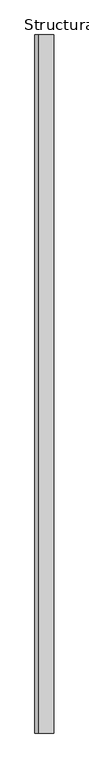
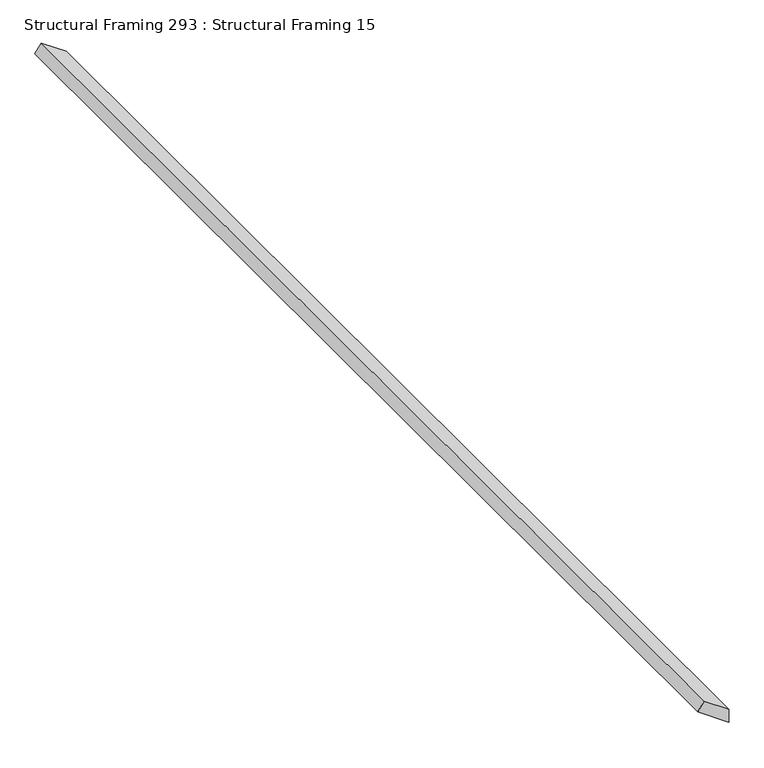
"""IFC4 building model written with IfcOpenShell, lengths in millimetres: beam geometry, Structural Framing 293 : Structural Framing 15."""

from ifc_helpers import new_model, si_unit, frame, origin, place, context, project, spatial, polyline, outline, extrude, source, transform, mapped, element, save


def structural_framing_293_structural_framing_15_7859e044(model_context):
    return source(origin(), model_context, "Body", "SweptSolid", [
        extrude(outline(polyline([(100.0, 5062.7785255), (51.1319528, 5132.5693297), (81.6513175, 5132.5693297), (120.4788011, 5077.1179364), (100.0, 5062.7785255)])), frame((0.0, -6702.9048058, 0.0), z_axis=(0.0, 1.0, 0.0), x_axis=(0.0, 0.0, 1.0)), (0.0, 0.0, 1.0), 2558.455608),
    ])


if __name__ == "__main__":
    model = new_model("IFC4")
    model_context = context("Model", 3, world=origin())
    ifc_project = project(units=[si_unit("LENGTHUNIT", "METRE", prefix="MILLI")], contexts=[model_context])
    site = spatial("IfcSite", under=ifc_project)
    building = spatial("IfcBuilding", under=site)
    placement = place(None, origin())
    structural_framing_293_structural_framing_15_shape = structural_framing_293_structural_framing_15_7859e044(model_context)
    element("IfcBeam", 1, ObjectType="Structural Framing 293 : Structural Framing 15", at=placement, inside=building, context=model_context, shape_type="MappedRepresentation", body=[
        mapped(structural_framing_293_structural_framing_15_shape, transform((0.0, 0.0, 0.0), x_axis=(1.0, 0.0, 0.0), y_axis=(0.0, 1.0, 0.0), z_axis=(0.0, 0.0, 1.0))),
    ])
    save(model, "model.ifc")
